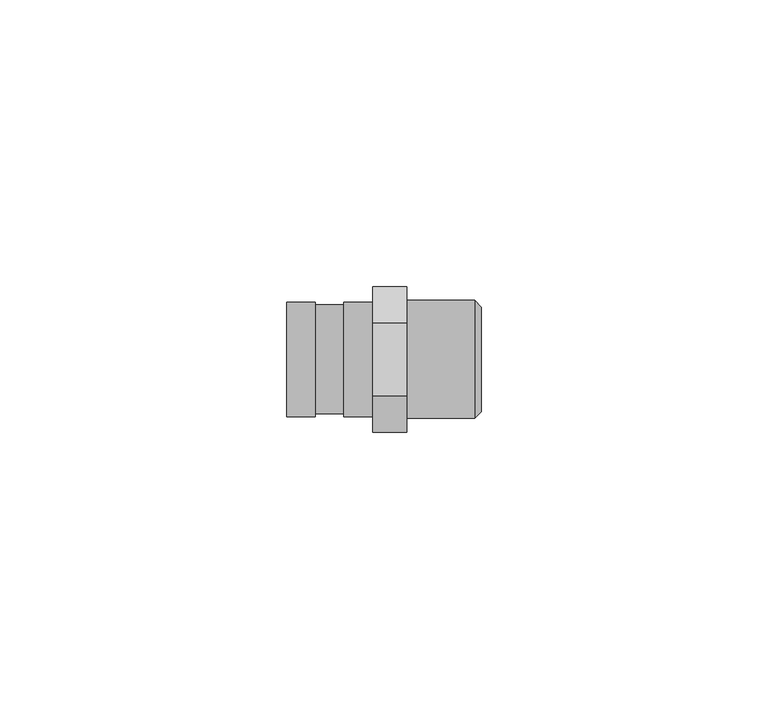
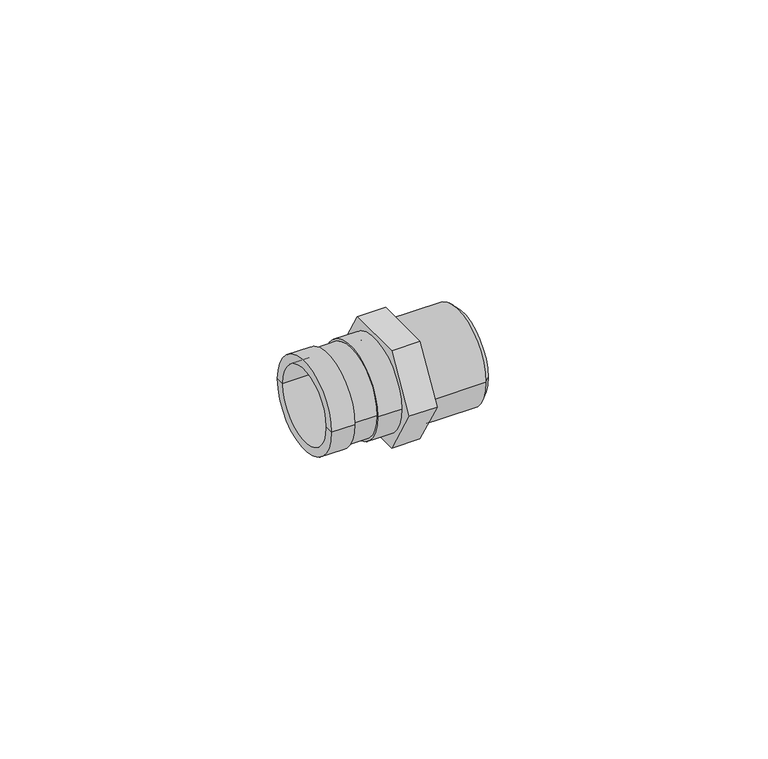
"""IFC4 building model written with IfcOpenShell, lengths in millimetres: pipe fitting geometry, Astra - Conexão Fixa Macho - KRC : Astra - Conexão Fixa Macho - KRC."""

import ifcopenshell
import ifcopenshell.guid

model = None  # the IFC model being written
_history = None  # IfcOwnerHistory: only IFC2X3 demands one
_inside = {}  # id of a spatial element -> (the spatial element, [elements in it])
_under = {}  # id of a project, library or spatial element -> (it, [spatial elements below it])
_declared = {}  # id of a project -> (the project, [libraries it declares])
_typed = {}  # id of a type object -> (the type object, [elements of that type])
_made_of = {}  # id of a material, layer set ... -> (it, [elements and type objects made of it])


def new_model(schema):
    """Start an empty IFC model of exactly this schema.

    Asked for "IFC4X3", IfcOpenShell would pick the latest addendum, in which some entities
    have other attributes; the version numbers below select the first issue.
    IFC2X3 requires an IfcOwnerHistory on every rooted entity: one is made here for all.
    """
    global model, _history
    if schema == "IFC4X3":
        model = ifcopenshell.file(schema_version=(4, 3, 0, 0))
    else:
        model = ifcopenshell.file(schema=schema)
    _inside.clear()
    _under.clear()
    _declared.clear()
    _typed.clear()
    _made_of.clear()
    _history = None
    if model.schema == "IFC2X3":
        org = make("IfcOrganization", Name="unknown")
        user = make(
            "IfcPersonAndOrganization",
            ThePerson=make("IfcPerson", FamilyName="unknown"),
            TheOrganization=org,
        )
        app = make(
            "IfcApplication",
            ApplicationDeveloper=org,
            Version="unknown",
            ApplicationFullName="unknown",
            ApplicationIdentifier="unknown",
        )
        _history = make(
            "IfcOwnerHistory",
            OwningUser=user,
            OwningApplication=app,
            ChangeAction="ADDED",
            CreationDate=0,
        )
    return model


def make(cls, **values):
    """One entity of the class cls with the attributes given. An attribute that is None is left unset."""
    return model.create_entity(
        cls, **{name: value for name, value in values.items() if value is not None}
    )


def rooted(cls, **values):
    """An entity with a GlobalId (a new one), such as an element, a storey or a relation."""
    return make(cls, GlobalId=ifcopenshell.guid.new(), OwnerHistory=_history, **values)


def si_unit(unit_type, name, prefix=None):
    """IfcSIUnit, for example si_unit("LENGTHUNIT", "METRE", prefix="MILLI")."""
    return make("IfcSIUnit", UnitType=unit_type, Prefix=prefix, Name=name)


def assignment(units):
    """IfcUnitAssignment: the units of a project."""
    return None if units is None else make("IfcUnitAssignment", Units=units)


def point(xyz):
    """IfcCartesianPoint."""
    return None if xyz is None else make("IfcCartesianPoint", Coordinates=xyz)


def direction(xyz):
    """IfcDirection."""
    return None if xyz is None else make("IfcDirection", DirectionRatios=xyz)


def frame(location, z_axis=None, x_axis=None):
    """IfcAxis2Placement3D, a coordinate frame: its origin and axes. An axis left out is left unset."""
    return make(
        "IfcAxis2Placement3D",
        Location=point(location),
        Axis=direction(z_axis),
        RefDirection=direction(x_axis),
    )


def origin():
    """The frame at (0, 0, 0) with its axes left unset."""
    return frame((0.0, 0.0, 0.0))


def place(relative_to, where):
    """IfcLocalPlacement: puts the frame where relative to a parent placement (None: the world)."""
    return make(
        "IfcLocalPlacement", PlacementRelTo=relative_to, RelativePlacement=where
    )


def context(
    kind, dimensions, precision=None, world=None, true_north=None, identifier=None
):
    """IfcGeometricRepresentationContext, for example the 3D "Model" context."""
    return make(
        "IfcGeometricRepresentationContext",
        ContextIdentifier=identifier,
        ContextType=kind,
        CoordinateSpaceDimension=dimensions,
        Precision=precision,
        WorldCoordinateSystem=world,
        TrueNorth=true_north,
    )


def project(units=None, contexts=None):
    """IfcProject with its units and contexts."""
    return rooted(
        "IfcProject",
        Name="project",
        RepresentationContexts=contexts,
        UnitsInContext=assignment(units),
    )


def spatial(cls, under=None, at=None, **own):
    """A site, building, storey or space (cls), placed at a placement, below another one or the project."""
    s = rooted(cls, ObjectPlacement=at, **own)
    if under is not None:
        _under.setdefault(under.id(), (under, []))[1].append(s)
    return s


def polyline(points):
    """IfcPolyline through the points."""
    return make("IfcPolyline", Points=[point(p) for p in points])


def circle_curve(where, radius):
    """IfcCircle in the frame where."""
    return make("IfcCircle", Position=where, Radius=radius)


def outline(outer, holes=None, kind="AREA"):
    """IfcArbitraryClosedProfileDef: a profile drawn as a closed curve; with holes, ...WithVoids."""
    if holes is None:
        return make("IfcArbitraryClosedProfileDef", ProfileType=kind, OuterCurve=outer)
    return make(
        "IfcArbitraryProfileDefWithVoids",
        ProfileType=kind,
        OuterCurve=outer,
        InnerCurves=holes,
    )


def extrude(swept, where, along, depth):
    """IfcExtrudedAreaSolid: the profile swept, set in the frame where, extruded along a direction by depth."""
    return make(
        "IfcExtrudedAreaSolid",
        SweptArea=swept,
        Position=where,
        ExtrudedDirection=direction(along),
        Depth=depth,
    )


def shape(context_of_items, identifier, shape_type, items):
    """IfcShapeRepresentation: the items that make up one representation, for example the "Body"."""
    return make(
        "IfcShapeRepresentation",
        ContextOfItems=context_of_items,
        RepresentationIdentifier=identifier,
        RepresentationType=shape_type,
        Items=items,
    )


def source(mapping_origin, context_of_items, identifier, shape_type, items):
    """IfcRepresentationMap: a shape defined once, which mapped items show again and again."""
    return make(
        "IfcRepresentationMap",
        MappingOrigin=mapping_origin,
        MappedRepresentation=shape(context_of_items, identifier, shape_type, items),
    )


def transform(
    local_origin,
    x_axis=None,
    y_axis=None,
    z_axis=None,
    scale=None,
    scale2=None,
    scale3=None,
    uniform=True,
):
    """IfcCartesianTransformationOperator3D, or its non-uniform kind. x_axis, y_axis, z_axis: its Axis1, 2, 3."""
    if uniform:
        return make(
            "IfcCartesianTransformationOperator3D",
            Axis1=direction(x_axis),
            Axis2=direction(y_axis),
            LocalOrigin=point(local_origin),
            Scale=scale,
            Axis3=direction(z_axis),
        )
    return make(
        "IfcCartesianTransformationOperator3DnonUniform",
        Axis1=direction(x_axis),
        Axis2=direction(y_axis),
        LocalOrigin=point(local_origin),
        Scale=scale,
        Axis3=direction(z_axis),
        Scale2=scale2,
        Scale3=scale3,
    )


def mapped(mapping_source, mapping_target):
    """IfcMappedItem: shows the shape of a source again, moved by a transform."""
    return make(
        "IfcMappedItem", MappingSource=mapping_source, MappingTarget=mapping_target
    )


def made_of(thing, what):
    """Note that an element or type object is made of a material, layer set ...; save() writes the relation."""
    if what is not None:
        _made_of.setdefault(what.id(), (what, []))[1].append(thing)
    return thing


def element(
    cls,
    number,
    at=None,
    inside=None,
    cuts=None,
    type_object=None,
    material=None,
    context=None,
    identifier="Body",
    shape_type=None,
    held_by="IfcProductDefinitionShape",
    body=None,
    shapes=None,
    **own,
):
    """One element of the class cls, such as IfcWall. Its Tag is "e" and its number.

    at: its placement. inside: the storey or other place that contains it. cuts: it is an
    opening in that element (IfcRelVoidsElement). A single representation is given by context,
    identifier, shape_type and body (its items); several are given by shapes. held_by: the class
    of the entity that holds the representations. save() writes the other relations.
    """
    e = rooted(cls, Tag="e%d" % number, ObjectPlacement=at, **own)
    if body is not None:
        shapes = [shape(context, identifier, shape_type, body)]
    if shapes is not None:
        e.Representation = make(held_by, Representations=shapes)
    if inside is not None:
        _inside.setdefault(inside.id(), (inside, []))[1].append(e)
    if cuts is not None:
        rooted(
            "IfcRelVoidsElement", RelatingBuildingElement=cuts, RelatedOpeningElement=e
        )
    if type_object is not None:
        _typed.setdefault(type_object.id(), (type_object, []))[1].append(e)
    return made_of(e, material)


def aggregate(whole, parts):
    """IfcRelAggregates: a whole, such as a stair, and the parts it consists of."""
    return rooted("IfcRelAggregates", RelatingObject=whole, RelatedObjects=parts)


def save(model, path):
    """Write the relations noted so far, then the file.

    IfcRelAggregates (storeys below a building ...), IfcRelContainedInSpatialStructure (elements
    in a storey), IfcRelDefinesByType, IfcRelAssociatesMaterial and IfcRelDeclares: one each for
    every whole, place, type object, material and project.
    """
    for whole, parts in _under.values():
        aggregate(whole, parts)
    for where, things in _inside.values():
        rooted(
            "IfcRelContainedInSpatialStructure",
            RelatedElements=things,
            RelatingStructure=where,
        )
    for kind, things in _typed.values():
        rooted("IfcRelDefinesByType", RelatedObjects=things, RelatingType=kind)
    for what, things in _made_of.values():
        rooted("IfcRelAssociatesMaterial", RelatedObjects=things, RelatingMaterial=what)
    for by, libraries in _declared.values():
        rooted("IfcRelDeclares", RelatingContext=by, RelatedDefinitions=libraries)
    model.write(path)


def plane_surface(at):
    """IfcPlane: the flat surface through the origin of the frame at, square to its z axis."""
    return make("IfcPlane", Position=at)


def cylinder_surface(at, radius):
    """IfcCylindricalSurface: all points at the distance radius from the z axis of the frame at."""
    return make("IfcCylindricalSurface", Position=at, Radius=radius)


def revolved_surface(curve, axis_point, axis_direction):
    """IfcSurfaceOfRevolution: the curve turned about the line through axis_point along axis_direction."""
    return make(
        "IfcSurfaceOfRevolution",
        SweptCurve=make("IfcArbitraryOpenProfileDef", ProfileType="CURVE", Curve=curve),
        AxisPosition=make("IfcAxis1Placement", Location=point(axis_point), Axis=direction(axis_direction)),
    )


def advanced_brep(points, edges, surfaces, faces):
    """IfcAdvancedBrep: a solid bounded by faces that lie on surfaces and meet in shared edges.

    An edge is (start, end): straight between two places in points (the first is 0);
    or (start, end, curve); or (start, end, curve, False) where it runs against its curve.
    A face is (place in surfaces, loops), or (place, loops, False) where it looks against
    its surface's normal. A loop lists edges by number (the first is 1), with a minus sign
    where the edge is run from its end to its start. The first loop is the outer one.
    """
    corners = [point(p) for p in points]
    vertices = [make("IfcVertexPoint", VertexGeometry=c) for c in corners]
    made = []
    for start, end, *more in edges:
        made.append(
            make(
                "IfcEdgeCurve",
                EdgeStart=vertices[start],
                EdgeEnd=vertices[end],
                EdgeGeometry=more[0] if more else make("IfcPolyline", Points=[corners[start], corners[end]]),
                SameSense=more[1] if len(more) > 1 else True,
            )
        )
    hull = []
    for where, loops, *sense in faces:
        bounds = []
        for j, loop in enumerate(loops):
            ring = [make("IfcOrientedEdge", EdgeElement=made[abs(k) - 1], Orientation=k > 0) for k in loop]
            bounds.append(
                make(
                    "IfcFaceOuterBound" if j == 0 else "IfcFaceBound",
                    Bound=make("IfcEdgeLoop", EdgeList=ring),
                    Orientation=True,
                )
            )
        hull.append(make("IfcAdvancedFace", Bounds=bounds, FaceSurface=surfaces[where], SameSense=sense[0] if sense else True))
    return make("IfcAdvancedBrep", Outer=make("IfcClosedShell", CfsFaces=hull))


def pipe_fitting_8c4c539a(model_context):
    return source(origin(), model_context, "Body", "SolidModel", [
        advanced_brep(
        [(-15.0, -8.15, 0.0), (-15.0, 8.15, 0.0), (-15.0, 10.0, 0.0), (-15.0, -10.0, 0.0), (0.0, -8.15, 0.0), (0.0, 8.15, 0.0), (0.0, -10.0, 0.0), (0.0, 10.0, 0.0), (-10.0, 10.0, 0.0), (-10.0, -10.0, 0.0), (-5.0, -10.0, 0.0), (-5.0, 10.0, 0.0), (-10.0, 9.5, 0.0), (-10.0, -9.5, 0.0), (-5.0, 9.5, 0.0), (-5.0, -9.5, 0.0)],
        [
            (0, 1, circle_curve(frame((-15.0, 0.0, 0.0), z_axis=(1.0, 0.0, 0.0), x_axis=(0.0, 1.0, 0.0)), 8.15)),
            (1, 2),
            (2, 3, circle_curve(frame((-15.0, 0.0, 0.0), z_axis=(-1.0, 0.0, 0.0), x_axis=(0.0, 1.0, 0.0)), 10.0)),
            (3, 0),
            (1, 0, circle_curve(frame((-15.0, 0.0, 0.0), z_axis=(1.0, 0.0, 0.0), x_axis=(0.0, 1.0, 0.0)), 8.15)),
            (3, 2, circle_curve(frame((-15.0, 0.0, 0.0), z_axis=(-1.0, 0.0, 0.0), x_axis=(0.0, 1.0, 0.0)), 10.0)),
            (0, 4),
            (4, 5, circle_curve(frame((0.0, 0.0, 0.0), z_axis=(1.0, 0.0, 0.0), x_axis=(0.0, 1.0, 0.0)), 8.15)),
            (5, 1),
            (5, 4, circle_curve(frame((0.0, 0.0, 0.0), z_axis=(1.0, 0.0, 0.0), x_axis=(0.0, 1.0, 0.0)), 8.15)),
            (4, 6),
            (6, 7, circle_curve(frame((0.0, 0.0, 0.0), z_axis=(1.0, 0.0, 0.0), x_axis=(0.0, 1.0, 0.0)), 10.0)),
            (7, 5),
            (7, 6, circle_curve(frame((0.0, 0.0, 0.0), z_axis=(1.0, 0.0, 0.0), x_axis=(0.0, 1.0, 0.0)), 10.0)),
            (2, 8),
            (8, 9, circle_curve(frame((-10.0, 0.0, 0.0), z_axis=(-1.0, 0.0, 0.0), x_axis=(0.0, 1.0, 0.0)), 10.0)),
            (9, 3),
            (6, 10),
            (10, 11, circle_curve(frame((-5.0, 0.0, 0.0), z_axis=(1.0, 0.0, 0.0), x_axis=(0.0, 1.0, 0.0)), 10.0)),
            (11, 7),
            (9, 8, circle_curve(frame((-10.0, 0.0, 0.0), z_axis=(-1.0, 0.0, 0.0), x_axis=(0.0, 1.0, 0.0)), 10.0)),
            (11, 10, circle_curve(frame((-5.0, 0.0, 0.0), z_axis=(1.0, 0.0, 0.0), x_axis=(0.0, 1.0, 0.0)), 10.0)),
            (12, 13, circle_curve(frame((-10.0, 0.0, 0.0), z_axis=(-1.0, 0.0, 0.0), x_axis=(0.0, 1.0, 0.0)), 9.5)),
            (13, 9),
            (8, 12),
            (13, 12, circle_curve(frame((-10.0, 0.0, 0.0), z_axis=(-1.0, 0.0, 0.0), x_axis=(0.0, 1.0, 0.0)), 9.5)),
            (12, 14),
            (14, 15, circle_curve(frame((-5.0, 0.0, 0.0), z_axis=(-1.0, 0.0, 0.0), x_axis=(0.0, 1.0, 0.0)), 9.5)),
            (15, 13),
            (15, 14, circle_curve(frame((-5.0, 0.0, 0.0), z_axis=(-1.0, 0.0, 0.0), x_axis=(0.0, 1.0, 0.0)), 9.5)),
            (14, 11),
            (10, 15),
        ],
        [
            plane_surface(frame((-15.0, 0.0, 0.0), z_axis=(-1.0, 0.0, 0.0), x_axis=(0.0, 1.0, 0.0))),
            revolved_surface(polyline([(-15.0, 8.15, 0.0), (0.0, 8.15, 0.0)]), (-15.0, 0.0, 0.0), (-1.0, 0.0, 0.0)),
            plane_surface(frame((0.0, 0.0, 0.0), z_axis=(1.0, 0.0, 0.0), x_axis=(0.0, 1.0, 0.0))),
            cylinder_surface(frame((-15.0, 0.0, 0.0), z_axis=(-1.0, 0.0, 0.0), x_axis=(0.0, 1.0, 0.0)), 10.0),
            plane_surface(frame((-10.0, 0.0, 0.0), z_axis=(1.0, 0.0, 0.0), x_axis=(0.0, 1.0, 0.0))),
            cylinder_surface(frame((-15.0, 0.0, 0.0), z_axis=(-1.0, 0.0, 0.0), x_axis=(0.0, 1.0, 0.0)), 9.5),
            plane_surface(frame((-5.0, 0.0, 0.0), z_axis=(-1.0, 0.0, 0.0), x_axis=(0.0, 1.0, 0.0))),
        ],
        [
            (0, [[1, 2, 3, 4]]),
            (0, [[-2, 5, -4, 6]]),
            (1, [[-1, 7, 8, 9]]),
            (1, [[-5, -9, 10, -7]]),
            (2, [[-8, 11, 12, 13]]),
            (2, [[-10, -13, 14, -11]]),
            (3, [[-3, 15, 16, 17]]),
            (3, [[-12, 18, 19, 20]]),
            (3, [[-6, -17, 21, -15]]),
            (3, [[-14, -20, 22, -18]]),
            (4, [[23, 24, -16, 25]]),
            (4, [[26, -25, -21, -24]]),
            (5, [[-23, 27, 28, 29]]),
            (5, [[-26, -29, 30, -27]]),
            (6, [[-28, 31, -19, 32]]),
            (6, [[-30, -32, -22, -31]]),
        ],
    ),
        extrude(outline(polyline([(-12.7017059, 0.0), (-6.350853, 11.0), (6.350853, 11.0), (12.7017059, 0.0), (6.350853, -11.0), (-6.350853, -11.0), (-12.7017059, 0.0)])), frame((0.0, 0.0, 0.0), z_axis=(1.0, 0.0, 0.0), x_axis=(0.0, 1.0, 0.0)), (0.0, 0.0, 1.0), 6.0),
        advanced_brep(
        [(6.0, -10.3, 0.0), (6.0, 10.3, 0.0), (17.8, 10.3, 0.0), (17.8, -10.3, 0.0), (6.0, -7.5, 0.0), (6.0, 7.5, 0.0), (19.0, -7.5, 0.0), (19.0, 7.5, 0.0), (19.0, -9.1, 0.0), (19.0, 9.1, 0.0)],
        [
            (0, 1, circle_curve(frame((6.0, 0.0, 0.0), z_axis=(1.0, 0.0, 0.0), x_axis=(0.0, 1.0, 0.0)), 10.3)),
            (1, 2),
            (2, 3, circle_curve(frame((17.8, 0.0, 0.0), z_axis=(-1.0, 0.0, 0.0), x_axis=(0.0, 1.0, 0.0)), 10.3)),
            (3, 0),
            (1, 0, circle_curve(frame((6.0, 0.0, 0.0), z_axis=(1.0, 0.0, 0.0), x_axis=(0.0, 1.0, 0.0)), 10.3)),
            (3, 2, circle_curve(frame((17.8, 0.0, 0.0), z_axis=(-1.0, 0.0, 0.0), x_axis=(0.0, 1.0, 0.0)), 10.3)),
            (4, 5, circle_curve(frame((6.0, 0.0, 0.0), z_axis=(1.0, 0.0, 0.0), x_axis=(0.0, 1.0, 0.0)), 7.5)),
            (5, 1),
            (0, 4),
            (5, 4, circle_curve(frame((6.0, 0.0, 0.0), z_axis=(1.0, 0.0, 0.0), x_axis=(0.0, 1.0, 0.0)), 7.5)),
            (6, 7, circle_curve(frame((19.0, 0.0, 0.0), z_axis=(1.0, 0.0, 0.0), x_axis=(0.0, 1.0, 0.0)), 7.5)),
            (7, 5),
            (4, 6),
            (7, 6, circle_curve(frame((19.0, 0.0, 0.0), z_axis=(1.0, 0.0, 0.0), x_axis=(0.0, 1.0, 0.0)), 7.5)),
            (8, 9, circle_curve(frame((19.0, 0.0, 0.0), z_axis=(1.0, 0.0, 0.0), x_axis=(0.0, 1.0, 0.0)), 9.1)),
            (9, 7),
            (6, 8),
            (9, 8, circle_curve(frame((19.0, 0.0, 0.0), z_axis=(1.0, 0.0, 0.0), x_axis=(0.0, 1.0, 0.0)), 9.1)),
            (2, 9),
            (8, 3),
        ],
        [
            cylinder_surface(frame((6.0, 0.0, 0.0), z_axis=(-1.0, 0.0, 0.0), x_axis=(0.0, 1.0, 0.0)), 10.3),
            plane_surface(frame((6.0, 0.0, 0.0), z_axis=(-1.0, 0.0, 0.0), x_axis=(0.0, 1.0, 0.0))),
            revolved_surface(polyline([(6.0, 7.5, 0.0), (19.0, 7.5, 0.0)]), (6.0, 0.0, 0.0), (-1.0, 0.0, 0.0)),
            plane_surface(frame((19.0, 0.0, 0.0), z_axis=(1.0, 0.0, 0.0), x_axis=(0.0, 1.0, 0.0))),
            revolved_surface(polyline([(19.0, 9.1, 0.0), (17.8, 10.3, 0.0)]), (6.0, 0.0, 0.0), (-1.0, 0.0, 0.0)),
        ],
        [
            (0, [[1, 2, 3, 4]]),
            (0, [[5, -4, 6, -2]]),
            (1, [[7, 8, -1, 9]]),
            (1, [[10, -9, -5, -8]]),
            (2, [[11, 12, -7, 13]]),
            (2, [[14, -13, -10, -12]]),
            (3, [[15, 16, -11, 17]]),
            (3, [[18, -17, -14, -16]]),
            (4, [[-3, 19, -15, 20]]),
            (4, [[-6, -20, -18, -19]]),
        ],
    ),
    ])


if __name__ == "__main__":
    model = new_model("IFC4")
    model_context = context("Model", 3, world=origin())
    ifc_project = project(units=[si_unit("LENGTHUNIT", "METRE", prefix="MILLI")], contexts=[model_context])
    site = spatial("IfcSite", under=ifc_project)
    building = spatial("IfcBuilding", under=site)
    placement = place(None, origin())
    pipe_fitting_shape = pipe_fitting_8c4c539a(model_context)
    element("IfcPipeFitting", 1, ObjectType="Astra - Conexão Fixa Macho - KRC : Astra - Conexão Fixa Macho - KRC", at=placement, inside=building, context=model_context, shape_type="MappedRepresentation", body=[
        mapped(pipe_fitting_shape, transform((0.0, 0.0, 0.0), x_axis=(1.0, 0.0, 0.0), y_axis=(0.0, 1.0, 0.0), z_axis=(0.0, 0.0, 1.0))),
    ])
    save(model, "model.ifc")
